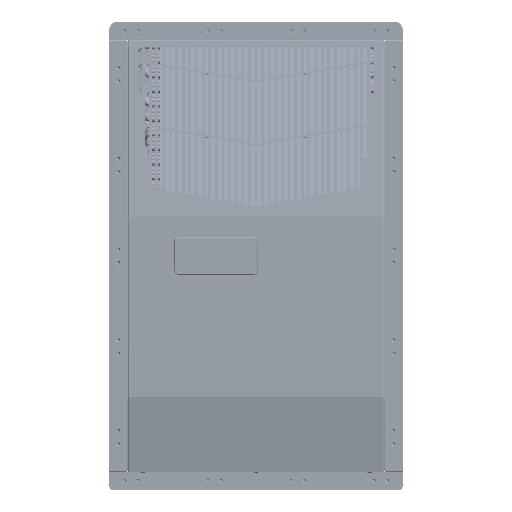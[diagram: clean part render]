
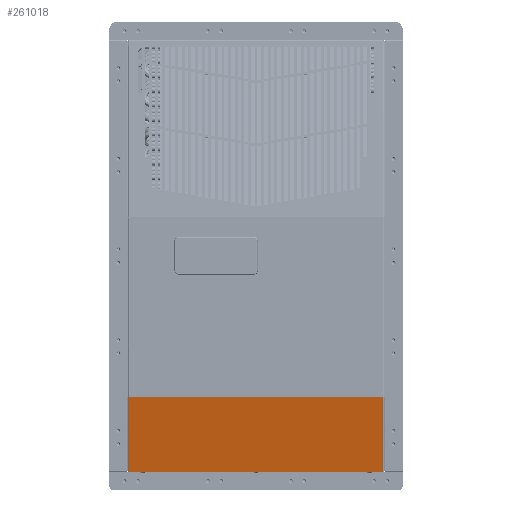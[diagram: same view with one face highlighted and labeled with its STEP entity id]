
A CAD part, top view. The second image highlights one B-rep face of the part: STEP entity #261018.
In plain terms, the highlighted planar face has unit normal (0, -0.212, 0.977).
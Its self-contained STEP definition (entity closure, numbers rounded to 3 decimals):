
#30834 = EDGE_LOOP ( 'NONE', ( #266851, #266860, #266867, #266872, #266878, #266883, #266890, #266895, #266900, #266906, #266913, #266920 ) ) ;
#87513 = CARTESIAN_POINT ( 'NONE',  ( 0.094, -23.605, 6.553 ) ) ;
#87515 = CARTESIAN_POINT ( 'NONE',  ( -0.094, -23.605, 6.553 ) ) ;
#87519 = CARTESIAN_POINT ( 'NONE',  ( 0.344, -23.605, 6.553 ) ) ;
#87523 = CARTESIAN_POINT ( 'NONE',  ( 8.404, -23.605, 6.553 ) ) ;
#87527 = CARTESIAN_POINT ( 'NONE',  ( 0.094, -23.612, 6.552 ) ) ;
#87530 = CARTESIAN_POINT ( 'NONE',  ( 0.344, -23.612, 6.552 ) ) ;
#87534 = CARTESIAN_POINT ( 'NONE',  ( -0.094, -23.612, 6.552 ) ) ;
#87536 = CARTESIAN_POINT ( 'NONE',  ( -0.344, -23.612, 6.552 ) ) ;
#87539 = CARTESIAN_POINT ( 'NONE',  ( -0.344, -23.605, 6.553 ) ) ;
#87543 = CARTESIAN_POINT ( 'NONE',  ( -8.404, -23.605, 6.553 ) ) ;
#87546 = CARTESIAN_POINT ( 'NONE',  ( -8.404, -28.54, 5.482 ) ) ;
#87550 = CARTESIAN_POINT ( 'NONE',  ( 8.404, -28.54, 5.482 ) ) ;
#138563 = AXIS2_PLACEMENT_3D ( 'NONE', #169648, #169660, #169661 ) ;
#151972 = FACE_OUTER_BOUND ( 'NONE', #30834, .T. ) ;
#169648 = CARTESIAN_POINT ( 'NONE',  ( 8.404, -28.54, 5.482 ) ) ;
#169655 = PLANE ( 'NONE',  #138563 ) ;
#169660 = DIRECTION ( 'NONE',  ( 0., -0.212, 0.977 ) ) ;
#169661 = DIRECTION ( 'NONE',  ( 0., -0.977, -0.212 ) ) ;
#220336 = EDGE_CURVE ( 'NONE', #231405, #231402, #250001, .T. ) ;
#220340 = EDGE_CURVE ( 'NONE', #231416, #231419, #249991, .T. ) ;
#220345 = EDGE_CURVE ( 'NONE', #231396, #231399, #250008, .T. ) ;
#220355 = EDGE_CURVE ( 'NONE', #231419, #231422, #249999, .T. ) ;
#220358 = EDGE_CURVE ( 'NONE', #231413, #231416, #250020, .T. ) ;
#220361 = EDGE_CURVE ( 'NONE', #231396, #231408, #250023, .T. ) ;
#220364 = EDGE_CURVE ( 'NONE', #231408, #231411, #250017, .T. ) ;
#220366 = EDGE_CURVE ( 'NONE', #231399, #231413, #250012, .T. ) ;
#220371 = EDGE_CURVE ( 'NONE', #231425, #231422, #250033, .T. ) ;
#220372 = EDGE_CURVE ( 'NONE', #231428, #231425, #250006, .T. ) ;
#220376 = EDGE_CURVE ( 'NONE', #231428, #231405, #250028, .T. ) ;
#220381 = EDGE_CURVE ( 'NONE', #231411, #231402, #250031, .T. ) ;
#231396 = VERTEX_POINT ( 'NONE', #87513 ) ;
#231399 = VERTEX_POINT ( 'NONE', #87515 ) ;
#231402 = VERTEX_POINT ( 'NONE', #87519 ) ;
#231405 = VERTEX_POINT ( 'NONE', #87523 ) ;
#231408 = VERTEX_POINT ( 'NONE', #87527 ) ;
#231411 = VERTEX_POINT ( 'NONE', #87530 ) ;
#231413 = VERTEX_POINT ( 'NONE', #87534 ) ;
#231416 = VERTEX_POINT ( 'NONE', #87536 ) ;
#231419 = VERTEX_POINT ( 'NONE', #87539 ) ;
#231422 = VERTEX_POINT ( 'NONE', #87543 ) ;
#231425 = VERTEX_POINT ( 'NONE', #87546 ) ;
#231428 = VERTEX_POINT ( 'NONE', #87550 ) ;
#249975 = VECTOR ( 'NONE', #251245, 39.37 ) ;
#249983 = VECTOR ( 'NONE', #251230, 39.37 ) ;
#249991 = LINE ( 'NONE', #251227, #250004 ) ;
#249999 = LINE ( 'NONE', #251258, #250014 ) ;
#250001 = LINE ( 'NONE', #251204, #249983 ) ;
#250004 = VECTOR ( 'NONE', #251235, 39.37 ) ;
#250006 = LINE ( 'NONE', #251274, #250036 ) ;
#250008 = LINE ( 'NONE', #251229, #249975 ) ;
#250012 = LINE ( 'NONE', #251269, #250030 ) ;
#250014 = VECTOR ( 'NONE', #251259, 39.37 ) ;
#250017 = LINE ( 'NONE', #251246, #250027 ) ;
#250020 = LINE ( 'NONE', #251262, #250022 ) ;
#250022 = VECTOR ( 'NONE', #251264, 39.37 ) ;
#250023 = LINE ( 'NONE', #251266, #250025 ) ;
#250025 = VECTOR ( 'NONE', #251268, 39.37 ) ;
#250027 = VECTOR ( 'NONE', #251272, 39.37 ) ;
#250028 = LINE ( 'NONE', #251282, #250039 ) ;
#250030 = VECTOR ( 'NONE', #251276, 39.37 ) ;
#250031 = LINE ( 'NONE', #251286, #250046 ) ;
#250033 = LINE ( 'NONE', #251278, #250035 ) ;
#250035 = VECTOR ( 'NONE', #251280, 39.37 ) ;
#250036 = VECTOR ( 'NONE', #251284, 39.37 ) ;
#250039 = VECTOR ( 'NONE', #251288, 39.37 ) ;
#250046 = VECTOR ( 'NONE', #251297, 39.37 ) ;
#251204 = CARTESIAN_POINT ( 'NONE',  ( 8.404, -23.605, 6.553 ) ) ;
#251227 = CARTESIAN_POINT ( 'NONE',  ( -0.344, -28.54, 5.482 ) ) ;
#251229 = CARTESIAN_POINT ( 'NONE',  ( 8.404, -23.605, 6.553 ) ) ;
#251230 = DIRECTION ( 'NONE',  ( -1., 0., 0. ) ) ;
#251235 = DIRECTION ( 'NONE',  ( 0., 0.977, 0.212 ) ) ;
#251245 = DIRECTION ( 'NONE',  ( -1., 0., 0. ) ) ;
#251246 = CARTESIAN_POINT ( 'NONE',  ( 8.404, -23.612, 6.552 ) ) ;
#251258 = CARTESIAN_POINT ( 'NONE',  ( 8.404, -23.605, 6.553 ) ) ;
#251259 = DIRECTION ( 'NONE',  ( -1., 0., 0. ) ) ;
#251262 = CARTESIAN_POINT ( 'NONE',  ( 8.404, -23.612, 6.552 ) ) ;
#251264 = DIRECTION ( 'NONE',  ( -1., 0., 0. ) ) ;
#251266 = CARTESIAN_POINT ( 'NONE',  ( 0.094, -28.54, 5.482 ) ) ;
#251268 = DIRECTION ( 'NONE',  ( 0., -0.977, -0.212 ) ) ;
#251269 = CARTESIAN_POINT ( 'NONE',  ( -0.094, -28.54, 5.482 ) ) ;
#251272 = DIRECTION ( 'NONE',  ( 1., 0., 0. ) ) ;
#251274 = CARTESIAN_POINT ( 'NONE',  ( 8.404, -28.54, 5.482 ) ) ;
#251276 = DIRECTION ( 'NONE',  ( 0., -0.977, -0.212 ) ) ;
#251278 = CARTESIAN_POINT ( 'NONE',  ( -8.404, -28.54, 5.482 ) ) ;
#251280 = DIRECTION ( 'NONE',  ( 0., 0.977, 0.212 ) ) ;
#251282 = CARTESIAN_POINT ( 'NONE',  ( 8.404, -28.54, 5.482 ) ) ;
#251284 = DIRECTION ( 'NONE',  ( -1., 0., 0. ) ) ;
#251286 = CARTESIAN_POINT ( 'NONE',  ( 0.344, -28.54, 5.482 ) ) ;
#251288 = DIRECTION ( 'NONE',  ( 0., 0.977, 0.212 ) ) ;
#251297 = DIRECTION ( 'NONE',  ( 0., 0.977, 0.212 ) ) ;
#261018 = ADVANCED_FACE ( 'NONE', ( #151972 ), #169655, .T. ) ;
#266851 = ORIENTED_EDGE ( 'NONE', *, *, #220364, .F. ) ;
#266860 = ORIENTED_EDGE ( 'NONE', *, *, #220361, .F. ) ;
#266867 = ORIENTED_EDGE ( 'NONE', *, *, #220345, .T. ) ;
#266872 = ORIENTED_EDGE ( 'NONE', *, *, #220366, .T. ) ;
#266878 = ORIENTED_EDGE ( 'NONE', *, *, #220358, .T. ) ;
#266883 = ORIENTED_EDGE ( 'NONE', *, *, #220340, .T. ) ;
#266890 = ORIENTED_EDGE ( 'NONE', *, *, #220355, .T. ) ;
#266895 = ORIENTED_EDGE ( 'NONE', *, *, #220371, .F. ) ;
#266900 = ORIENTED_EDGE ( 'NONE', *, *, #220372, .F. ) ;
#266906 = ORIENTED_EDGE ( 'NONE', *, *, #220376, .T. ) ;
#266913 = ORIENTED_EDGE ( 'NONE', *, *, #220336, .T. ) ;
#266920 = ORIENTED_EDGE ( 'NONE', *, *, #220381, .F. ) ;
